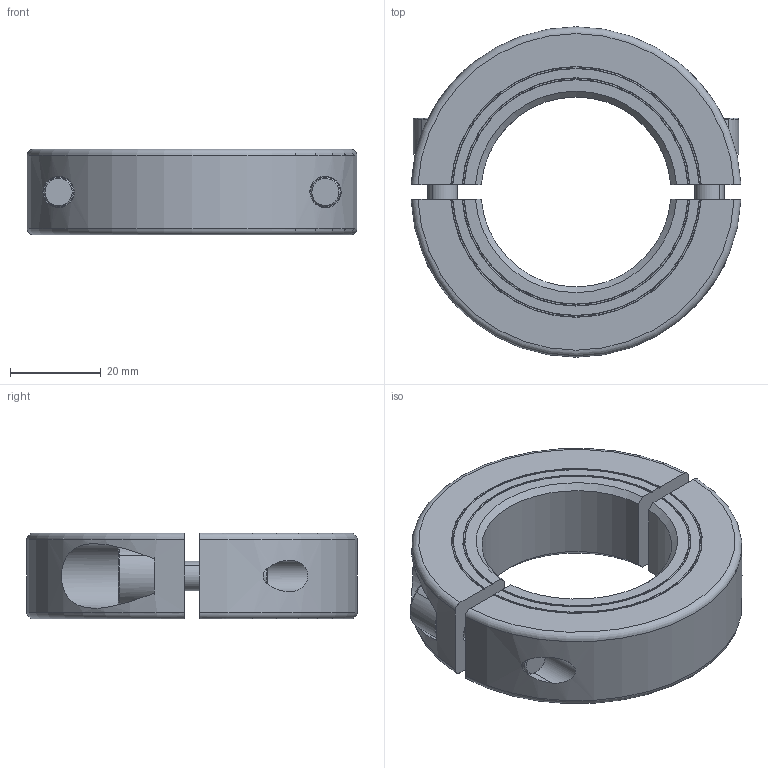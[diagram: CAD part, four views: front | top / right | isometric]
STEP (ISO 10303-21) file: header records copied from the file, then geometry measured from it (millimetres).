
FILE_DESCRIPTION((''),'2;1');
FILE_NAME('MSP-42-X','2016-09-09T',('SYSTEM'),(''),'PRO/ENGINEER BY PARAMETRIC TECHNOLOGY CORPORATION, 2015110','PRO/ENGINEER BY PARAMETRIC TECHNOLOGY CORPORATION, 2015110','');
FILE_SCHEMA(('AUTOMOTIVE_DESIGN { 1 0 10303 214 1 1 1 1 }'));
Length unit declared in the file: inch
Products named in the file (1): MSP-42-X
Bounding box: 72.93 x 73 x 19 mm (x, y, z)
Volume: 48237.5 mm3; surface area: 16377.6 mm2
Topology: 2 solids, 2 shells, 90 faces, 222 edges, 144 vertices
Faces by surface type: plane 36, cylinder 26, cone 20, torus 8
Entity records: 3629 total; most frequent: CARTESIAN_POINT 820, ORIENTED_EDGE 444, DIRECTION 430, EDGE_CURVE 222, AXIS2_PLACEMENT_3D 168, VERTEX_POINT 144, EDGE_LOOP 102, VECTOR 94
